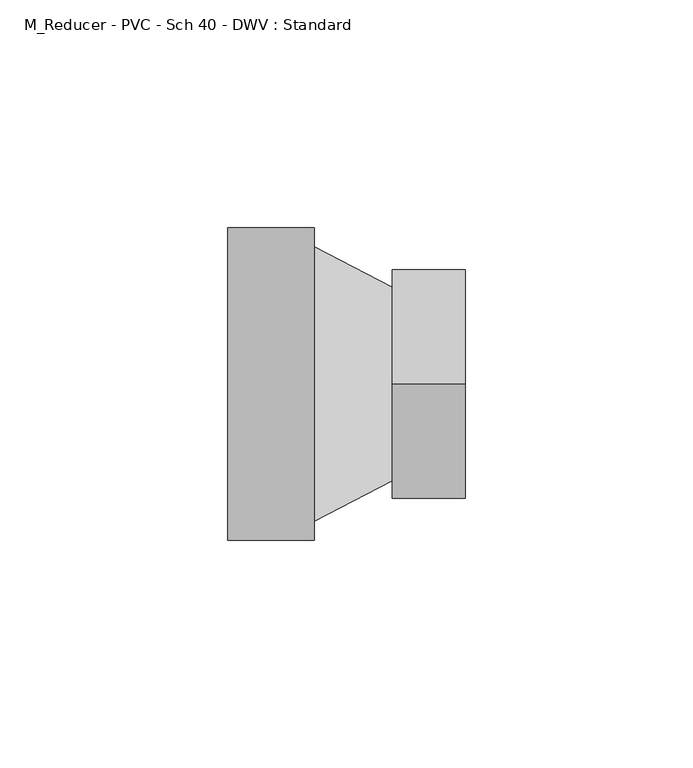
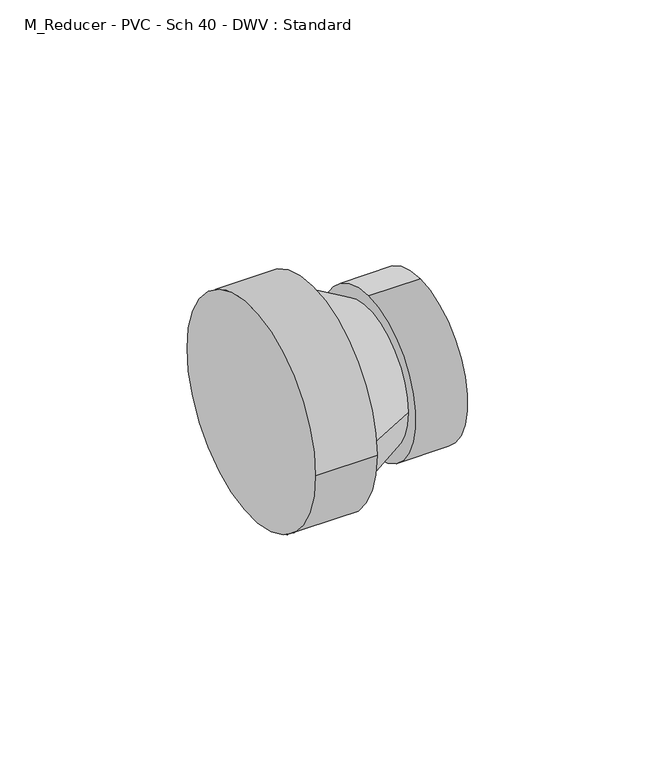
"""IFC4 building model written with IfcOpenShell, lengths in millimetres: pipe fitting geometry, M_Reducer - PVC - Sch 40 - DWV : Standard."""

from ifc_helpers import new_model, si_unit, frame, origin, place, context, project, spatial, circle_curve, source, transform, mapped, element, save
from ifc_brep_helpers import plane_surface, cylinder_surface, spline_surface, advanced_brep


def m_reducer_pvc_sch_40_dwv_standard_312d928c(model_context):
    return source(origin(), model_context, "Body", "AdvancedBrep", [
        advanced_brep(
        [(0.0, -34.3154, 0.0), (0.0, 34.3154, 0.0), (19.05, -34.3154, 0.0), (19.05, 34.3154, 0.0), (19.05, 30.1625, 0.0), (19.05, -30.1625, 0.0), (36.1560938, 21.2045957, -0.0570753), (36.1560938, -21.2035293, -0.0570753), (36.1560938, 0.0005332, 25.2100341), (36.1560938, 0.0005332, -25.3241846), (52.1560938, 0.0005332, 25.2100341), (52.1560938, 0.0005332, -25.3241846)],
        [
            (0, 1, circle_curve(frame((0.0, 0.0, 0.0), z_axis=(-1.0, 0.0, 0.0), x_axis=(0.0, 1.0, 0.0)), 34.3154)),
            (1, 0, circle_curve(frame((0.0, 0.0, 0.0), z_axis=(-1.0, 0.0, 0.0), x_axis=(0.0, 1.0, 0.0)), 34.3154)),
            (2, 3, circle_curve(frame((19.05, 0.0, 0.0), z_axis=(1.0, 0.0, 0.0), x_axis=(0.0, 1.0, 0.0)), 34.3154)),
            (3, 2, circle_curve(frame((19.05, 0.0, 0.0), z_axis=(1.0, 0.0, 0.0), x_axis=(0.0, 1.0, 0.0)), 34.3154)),
            (4, 5, circle_curve(frame((19.05, 0.0, 0.0), z_axis=(-1.0, 0.0, 0.0), x_axis=(0.0, 1.0, 0.0)), 30.1625)),
            (5, 4, circle_curve(frame((19.05, 0.0, 0.0), z_axis=(-1.0, 0.0, 0.0), x_axis=(0.0, 1.0, 0.0)), 30.1625)),
            (0, 2),
            (3, 1),
            (4, 6),
            (6, 7, circle_curve(frame((36.1560938, 0.0005332, -0.0570753), z_axis=(-1.0, 0.0, 0.0), x_axis=(0.0, 1.0, 0.0)), 21.2040625)),
            (7, 5),
            (7, 6, circle_curve(frame((36.1560938, 0.0005332, -0.0570753), z_axis=(-1.0, 0.0, 0.0), x_axis=(0.0, 1.0, 0.0)), 21.2040625)),
            (8, 9, circle_curve(frame((36.1560938, 0.0005332, -0.0570753), z_axis=(-1.0, 0.0, 0.0), x_axis=(0.0, 0.0, -1.0)), 25.2671094)),
            (9, 8, circle_curve(frame((36.1560938, 0.0005332, -0.0570753), z_axis=(-1.0, 0.0, 0.0), x_axis=(0.0, 0.0, -1.0)), 25.2671094)),
            (10, 11, circle_curve(frame((52.1560938, 0.0005332, -0.0570753), z_axis=(1.0, 0.0, 0.0), x_axis=(0.0, 0.0, -1.0)), 25.2671094)),
            (11, 10, circle_curve(frame((52.1560938, 0.0005332, -0.0570753), z_axis=(1.0, 0.0, 0.0), x_axis=(0.0, 0.0, -1.0)), 25.2671094)),
            (8, 10),
            (11, 9),
        ],
        [
            plane_surface(frame((0.0, 0.0, 0.0), z_axis=(-1.0, 0.0, 0.0), x_axis=(0.0, 0.0, 1.0))),
            plane_surface(frame((19.05, 0.0, 0.0), z_axis=(1.0, 0.0, 0.0), x_axis=(0.0, 0.0, 1.0))),
            cylinder_surface(frame((0.0, 0.0, 0.0), z_axis=(-1.0, 0.0, 0.0), x_axis=(0.0, 1.0, 0.0)), 34.3154),
            spline_surface(2, 1, [[(19.05, -30.1625, 0.0), (36.1560938, -21.2035293, -0.0570753)], [(19.05, -30.1625, -30.1625), (36.1560938, -21.2035293, -21.2611378)], [(19.05, 0.0, -30.1625), (36.1560938, 0.0005332, -21.2611378)], [(19.05, 30.1625, -30.1625), (36.1560938, 21.2045957, -21.2611378)], [(19.05, 30.1625, 0.0), (36.1560938, 21.2045957, -0.0570753)]], [3, 2, 3], [2, 2], [0.0, 1.0, 2.0], [0.0, 1.0], weights=[[1.0, 1.0], [0.7071067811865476, 0.7071067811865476], [1.0, 1.0], [0.7071067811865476, 0.7071067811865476], [1.0, 1.0]]),
            spline_surface(2, 1, [[(19.05, 30.1625, 0.0), (36.1560938, 21.2045957, -0.0570753)], [(19.05, 30.1625, 30.1625), (36.1560938, 21.2045957, 21.146987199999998)], [(19.05, 0.0, 30.1625), (36.1560938, 0.0005332, 21.146987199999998)], [(19.05, -30.1625, 30.1625), (36.1560938, -21.2035293, 21.146987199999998)], [(19.05, -30.1625, 0.0), (36.1560938, -21.2035293, -0.0570753)]], [3, 2, 3], [2, 2], [0.0, 1.0, 2.0], [0.0, 1.0], weights=[[1.0, 1.0], [0.7071067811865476, 0.7071067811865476], [1.0, 1.0], [0.7071067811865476, 0.7071067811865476], [1.0, 1.0]]),
            plane_surface(frame((36.1560938, 0.0005332, -0.0570753), z_axis=(-1.0, 0.0, 0.0), x_axis=(0.0, 1.0, 0.0))),
            plane_surface(frame((52.1560938, 0.0005332, -0.0570753), z_axis=(1.0, 0.0, 0.0), x_axis=(0.0, 1.0, 0.0))),
            cylinder_surface(frame((36.1560938, 0.0005332, -0.0570753), z_axis=(-1.0, 0.0, 0.0), x_axis=(0.0, 0.0, -1.0)), 25.2671094),
        ],
        [
            (0, [[1, 2]]),
            (1, [[3, 4], [5, 6]]),
            (2, [[-1, 7, -4, 8]]),
            (2, [[-2, -8, -3, -7]]),
            (3, [[9, 10, 11, -5]]),
            (4, [[-9, -6, -11, 12]]),
            (5, [[13, 14], [-10, -12]]),
            (6, [[15, 16]]),
            (7, [[-13, 17, -16, 18]]),
            (7, [[-14, -18, -15, -17]]),
        ],
    ),
    ])


if __name__ == "__main__":
    model = new_model("IFC4")
    model_context = context("Model", 3, world=origin())
    ifc_project = project(units=[si_unit("LENGTHUNIT", "METRE", prefix="MILLI")], contexts=[model_context])
    site = spatial("IfcSite", under=ifc_project)
    building = spatial("IfcBuilding", under=site)
    placement = place(None, origin())
    m_reducer_pvc_sch_40_dwv_standard_shape = m_reducer_pvc_sch_40_dwv_standard_312d928c(model_context)
    element("IfcPipeFitting", 1, ObjectType="M_Reducer - PVC - Sch 40 - DWV : Standard", at=placement, inside=building, context=model_context, shape_type="MappedRepresentation", body=[
        mapped(m_reducer_pvc_sch_40_dwv_standard_shape, transform((0.0, 0.0, 0.0), x_axis=(1.0, 0.0, 0.0), y_axis=(0.0, 1.0, 0.0), z_axis=(0.0, 0.0, 1.0))),
    ])
    save(model, "model.ifc")
